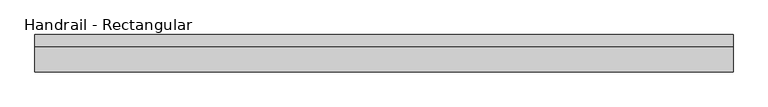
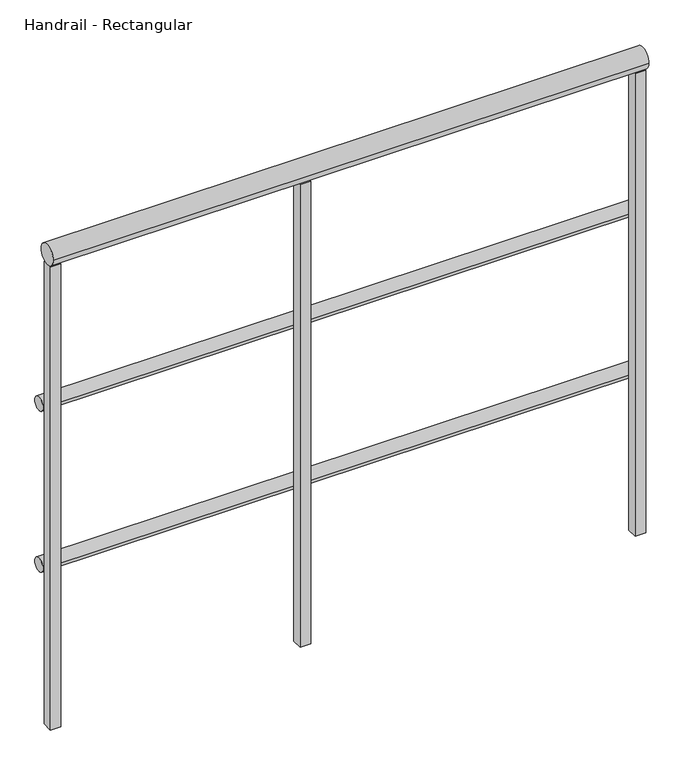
"""IFC4 building model written with IfcOpenShell, lengths in millimetres: railing geometry, Handrail - Rectangular."""

from ifc_helpers import new_model, si_unit, point, frame, frame_2d, origin, place, context, project, spatial, polyline, circle_curve, trimmed, segment, composite_curve, outline, extrude, source, transform, mapped, element, save


def handrail_rectangular_976a4a22(model_context):
    return source(origin(), model_context, "Body", "SweptSolid", [
        extrude(outline(composite_curve([segment(trimmed(circle_curve(frame_2d((11970.2316867, 3644.9)), 12.7), [point((11982.9316867, 3644.9))], [point((11957.5316867, 3644.9))], False, "CARTESIAN"), True, "CONTINUOUS"), segment(trimmed(circle_curve(frame_2d((11970.2316867, 3644.9)), 12.7), [point((11957.5316867, 3644.9))], [point((11982.9316867, 3644.9))], False, "CARTESIAN"), True, "CONTINUOUS")], self_intersect=False)), frame((-31964.2839563, 0.0, 0.0), z_axis=(1.0, 0.0, 0.0), x_axis=(0.0, 1.0, 0.0)), (0.0, 0.0, 1.0), 1066.8),
        extrude(outline(composite_curve([segment(trimmed(circle_curve(frame_2d((11970.2316867, 3340.1)), 12.7), [point((11982.9316867, 3340.1))], [point((11957.5316867, 3340.1))], False, "CARTESIAN"), True, "CONTINUOUS"), segment(trimmed(circle_curve(frame_2d((11970.2316867, 3340.1)), 12.7), [point((11957.5316867, 3340.1))], [point((11982.9316867, 3340.1))], False, "CARTESIAN"), True, "CONTINUOUS")], self_intersect=False)), frame((-31964.2839563, 0.0, 0.0), z_axis=(1.0, 0.0, 0.0), x_axis=(0.0, 1.0, 0.0)), (0.0, 0.0, 1.0), 1066.8),
        extrude(outline(composite_curve([segment(trimmed(circle_curve(frame_2d((11944.8316867, 3943.35)), 19.05), [point((11963.8816867, 3943.35))], [point((11925.7816867, 3943.35))], False, "CARTESIAN"), True, "CONTINUOUS"), segment(trimmed(circle_curve(frame_2d((11944.8316867, 3943.35)), 19.05), [point((11925.7816867, 3943.35))], [point((11963.8816867, 3943.35))], False, "CARTESIAN"), True, "CONTINUOUS")], self_intersect=False)), frame((-31964.2839563, 0.0, 0.0), z_axis=(1.0, 0.0, 0.0), x_axis=(0.0, 1.0, 0.0)), (0.0, 0.0, 1.0), 1066.8),
        extrude(outline(polyline([(-31497.5589563, 11935.3066867), (-31516.6089563, 11935.3066867), (-31516.6089563, 11954.3566867), (-31497.5589563, 11954.3566867), (-31497.5589563, 11935.3066867)])), frame((0.0, 0.0, 3048.0), z_axis=(0.0, 0.0, 1.0), x_axis=(1.0, 0.0, 0.0)), (0.0, 0.0, 1.0), 876.3),
        extrude(outline(polyline([(-31945.2339563, 11935.3066867), (-31964.2839563, 11935.3066867), (-31964.2839563, 11954.3566867), (-31945.2339563, 11954.3566867), (-31945.2339563, 11935.3066867)])), frame((0.0, 0.0, 3048.0), z_axis=(0.0, 0.0, 1.0), x_axis=(1.0, 0.0, 0.0)), (0.0, 0.0, 1.0), 876.3),
        extrude(outline(polyline([(-30897.4839563, 11935.3066867), (-30916.5339563, 11935.3066867), (-30916.5339563, 11954.3566867), (-30897.4839563, 11954.3566867), (-30897.4839563, 11935.3066867)])), frame((0.0, 0.0, 3048.0), z_axis=(0.0, 0.0, 1.0), x_axis=(1.0, 0.0, 0.0)), (0.0, 0.0, 1.0), 876.3),
    ])


if __name__ == "__main__":
    model = new_model("IFC4")
    model_context = context("Model", 3, world=origin())
    ifc_project = project(units=[si_unit("LENGTHUNIT", "METRE", prefix="MILLI")], contexts=[model_context])
    site = spatial("IfcSite", under=ifc_project)
    building = spatial("IfcBuilding", under=site)
    placement = place(None, origin())
    handrail_rectangular_shape = handrail_rectangular_976a4a22(model_context)
    element("IfcRailing", 1, ObjectType="Handrail - Rectangular", at=placement, inside=building, context=model_context, shape_type="MappedRepresentation", body=[
        mapped(handrail_rectangular_shape, transform((0.0, 0.0, 0.0), x_axis=(1.0, 0.0, 0.0), y_axis=(0.0, 1.0, 0.0), z_axis=(0.0, 0.0, 1.0))),
    ])
    save(model, "model.ifc")
